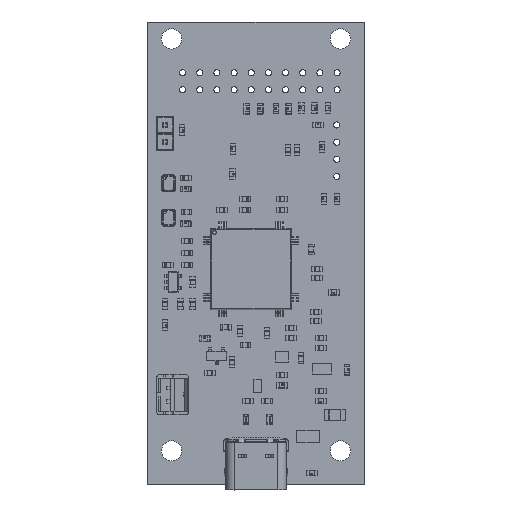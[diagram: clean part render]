
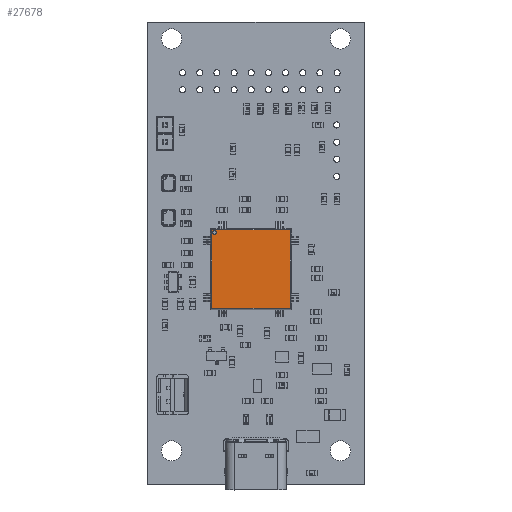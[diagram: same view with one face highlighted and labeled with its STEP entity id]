
A CAD part, top view. The second image highlights one B-rep face of the part: STEP entity #27678.
In plain terms, the highlighted planar face has unit normal (0, 0, 1) as drawn and (0, 1, 0) by its records, which use the part's own axes.
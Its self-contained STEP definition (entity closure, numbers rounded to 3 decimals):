
#26559 = VERTEX_POINT('',#26560);
#26560 = CARTESIAN_POINT('',(-5.394,1.35,-5.13));
#26566 = EDGE_CURVE('',#26567,#26559,#26569,.T.);
#26567 = VERTEX_POINT('',#26568);
#26568 = CARTESIAN_POINT('',(-5.394,1.35,-5.657));
#26569 = CIRCLE('',#26570,0.264);
#26570 = AXIS2_PLACEMENT_3D('',#26571,#26572,#26573);
#26571 = CARTESIAN_POINT('',(-5.394,1.35,-5.394));
#26572 = DIRECTION('',(0.,1.,0.));
#26573 = DIRECTION('',(0.,0.,1.));
#27678 = ADVANCED_FACE('',(#27679,#27689),#27723,.F.);
#27679 = FACE_BOUND('',#27680,.T.);
#27680 = EDGE_LOOP('',(#27681,#27688));
#27681 = ORIENTED_EDGE('',*,*,#27682,.F.);
#27682 = EDGE_CURVE('',#26559,#26567,#27683,.T.);
#27683 = CIRCLE('',#27684,0.264);
#27684 = AXIS2_PLACEMENT_3D('',#27685,#27686,#27687);
#27685 = CARTESIAN_POINT('',(-5.394,1.35,-5.394));
#27686 = DIRECTION('',(0.,1.,0.));
#27687 = DIRECTION('',(0.,0.,1.));
#27688 = ORIENTED_EDGE('',*,*,#26566,.F.);
#27689 = FACE_BOUND('',#27690,.T.);
#27690 = EDGE_LOOP('',(#27691,#27701,#27709,#27717));
#27691 = ORIENTED_EDGE('',*,*,#27692,.T.);
#27692 = EDGE_CURVE('',#27693,#27695,#27697,.T.);
#27693 = VERTEX_POINT('',#27694);
#27694 = CARTESIAN_POINT('',(-5.813,1.35,-5.813));
#27695 = VERTEX_POINT('',#27696);
#27696 = CARTESIAN_POINT('',(-5.813,1.35,5.813));
#27697 = LINE('',#27698,#27699);
#27698 = CARTESIAN_POINT('',(-5.813,1.35,5.894));
#27699 = VECTOR('',#27700,1.);
#27700 = DIRECTION('',(0.,0.,1.));
#27701 = ORIENTED_EDGE('',*,*,#27702,.T.);
#27702 = EDGE_CURVE('',#27695,#27703,#27705,.T.);
#27703 = VERTEX_POINT('',#27704);
#27704 = CARTESIAN_POINT('',(5.813,1.35,5.813));
#27705 = LINE('',#27706,#27707);
#27706 = CARTESIAN_POINT('',(5.894,1.35,5.813));
#27707 = VECTOR('',#27708,1.);
#27708 = DIRECTION('',(1.,0.,0.));
#27709 = ORIENTED_EDGE('',*,*,#27710,.T.);
#27710 = EDGE_CURVE('',#27703,#27711,#27713,.T.);
#27711 = VERTEX_POINT('',#27712);
#27712 = CARTESIAN_POINT('',(5.813,1.35,-5.813));
#27713 = LINE('',#27714,#27715);
#27714 = CARTESIAN_POINT('',(5.813,1.35,-5.894));
#27715 = VECTOR('',#27716,1.);
#27716 = DIRECTION('',(0.,0.,-1.));
#27717 = ORIENTED_EDGE('',*,*,#27718,.T.);
#27718 = EDGE_CURVE('',#27711,#27693,#27719,.T.);
#27719 = LINE('',#27720,#27721);
#27720 = CARTESIAN_POINT('',(-5.894,1.35,-5.813));
#27721 = VECTOR('',#27722,1.);
#27722 = DIRECTION('',(-1.,0.,0.));
#27723 = PLANE('',#27724);
#27724 = AXIS2_PLACEMENT_3D('',#27725,#27726,#27727);
#27725 = CARTESIAN_POINT('',(-6.,1.35,-6.));
#27726 = DIRECTION('',(0.,-1.,0.));
#27727 = DIRECTION('',(0.,0.,-1.));
